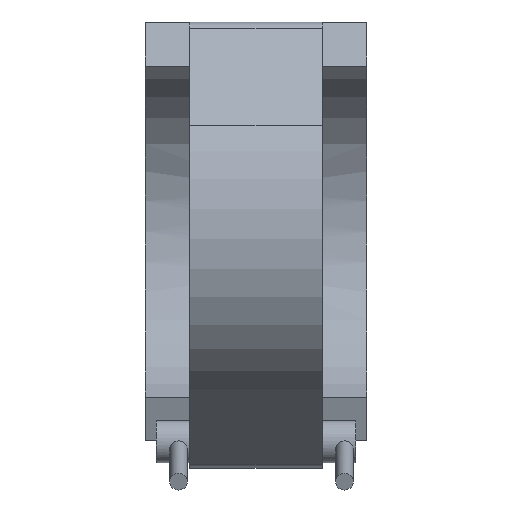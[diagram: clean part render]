
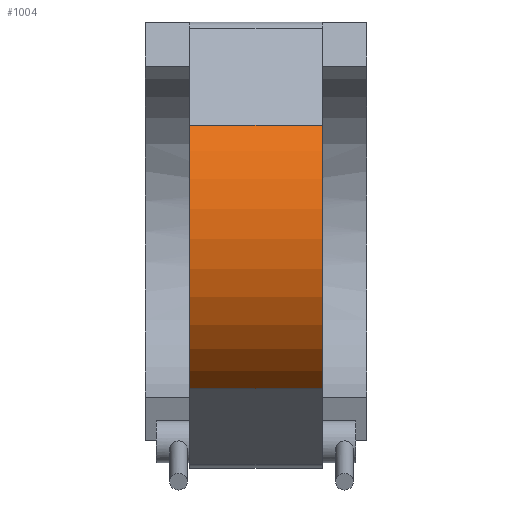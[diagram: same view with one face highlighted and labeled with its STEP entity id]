
A CAD part, front view. The second image highlights one B-rep face of the part: STEP entity #1004.
In plain terms, the highlighted cylindrical face has radius 147.315 mm (diameter 294.63 mm), a partial arc.
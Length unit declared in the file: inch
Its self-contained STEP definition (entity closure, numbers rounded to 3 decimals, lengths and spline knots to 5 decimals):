
#140=FACE_OUTER_BOUND('',#217,.T.);
#217=EDGE_LOOP('',(#890,#891,#892,#893));
#281=LINE('',#2083,#346);
#282=LINE('',#2087,#347);
#346=VECTOR('',#1413,0.3937);
#347=VECTOR('',#1418,0.3937);
#405=CIRCLE('',#1132,5.7998);
#408=CIRCLE('',#1137,5.7998);
#495=VERTEX_POINT('',#2067);
#496=VERTEX_POINT('',#2069);
#501=VERTEX_POINT('',#2081);
#502=VERTEX_POINT('',#2085);
#627=EDGE_CURVE('',#495,#496,#405,.T.);
#634=EDGE_CURVE('',#495,#501,#281,.T.);
#635=EDGE_CURVE('',#502,#501,#408,.T.);
#636=EDGE_CURVE('',#496,#502,#282,.T.);
#890=ORIENTED_EDGE('',*,*,#634,.T.);
#891=ORIENTED_EDGE('',*,*,#635,.F.);
#892=ORIENTED_EDGE('',*,*,#636,.F.);
#893=ORIENTED_EDGE('',*,*,#627,.F.);
#948=CYLINDRICAL_SURFACE('',#1136,5.7998);
#1004=ADVANCED_FACE('',(#140),#948,.T.);
#1132=AXIS2_PLACEMENT_3D('',#2070,#1401,#1402);
#1136=AXIS2_PLACEMENT_3D('',#2084,#1414,#1415);
#1137=AXIS2_PLACEMENT_3D('',#2086,#1416,#1417);
#1401=DIRECTION('center_axis',(-1.,0.,0.));
#1402=DIRECTION('ref_axis',(0.,-0.818,0.576));
#1413=DIRECTION('',(1.,0.,0.));
#1414=DIRECTION('center_axis',(1.,0.,0.));
#1415=DIRECTION('ref_axis',(0.,-0.818,0.576));
#1416=DIRECTION('center_axis',(1.,0.,0.));
#1417=DIRECTION('ref_axis',(0.,-0.818,0.576));
#1418=DIRECTION('',(1.,0.,0.));
#2067=CARTESIAN_POINT('',(-5.544,-3.06655,-4.9228));
#2069=CARTESIAN_POINT('',(-5.544,-4.74202,3.3393));
#2070=CARTESIAN_POINT('Origin',(-5.544,0.,0.));
#2081=CARTESIAN_POINT('',(-1.386,-3.06655,-4.9228));
#2083=CARTESIAN_POINT('',(-3.465,-3.06655,-4.9228));
#2084=CARTESIAN_POINT('Origin',(-3.465,0.,0.));
#2085=CARTESIAN_POINT('',(-1.386,-4.74202,3.3393));
#2086=CARTESIAN_POINT('Origin',(-1.386,0.,0.));
#2087=CARTESIAN_POINT('',(-3.465,-4.74202,3.3393));
